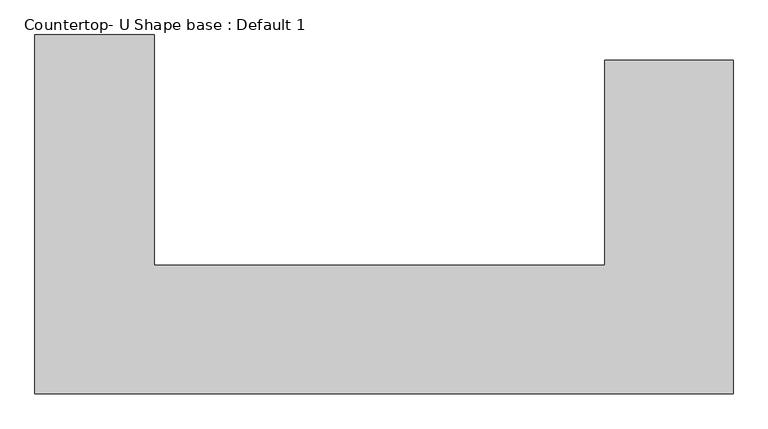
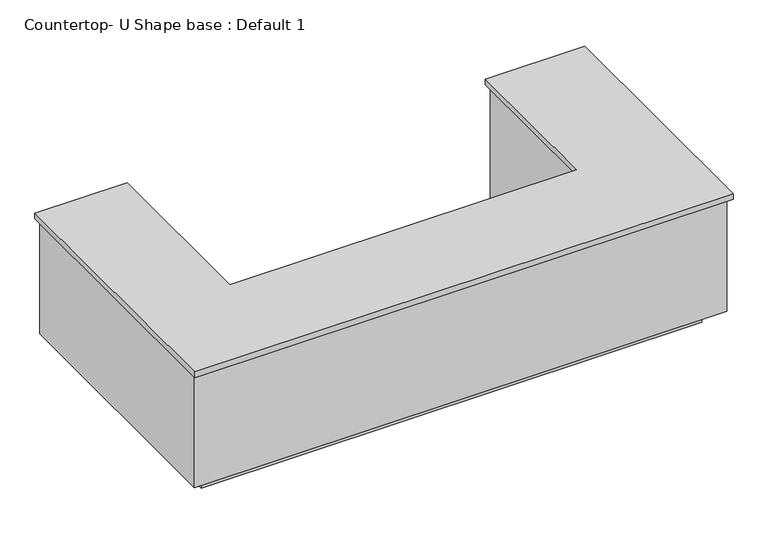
"""IFC4 building model written with IfcOpenShell, lengths in millimetres: proxy geometry, Countertop- U Shape base : Default 1."""

from ifc_helpers import new_model, si_unit, frame, origin, origin_with_axes, place, context, project, spatial, polyline, outline, extrude, source, transform, mapped, element, save


def countertop_u_shape_base_default_1_f55b23da(model_context):
    return source(origin(), model_context, "Body", "SweptSolid", [
        extrude(outline(polyline([(-1288.55, -19.05), (-1288.55, 1754.3427288), (-698.0, 1754.3427288), (-698.0, 615.95), (1524.5, 615.95), (1524.5, 1628.1980547), (2159.5, 1628.1980547), (2159.5, -19.05), (-1288.55, -19.05)])), frame((0.0, 0.0, 876.3), z_axis=(0.0, 0.0, 1.0), x_axis=(1.0, 0.0, 0.0)), (0.0, 0.0, 1.0), 38.1),
        extrude(outline(polyline([(1543.55, 596.9), (1543.55, 1609.1480547), (2140.45, 1609.1480547), (2140.45, 19.05), (-1269.5, 19.05), (-1269.5, 1735.2927288), (-717.05, 1735.2927288), (-717.05, 596.9), (1543.55, 596.9)])), frame((0.0, 0.0, 101.6), z_axis=(0.0, 0.0, 1.0), x_axis=(1.0, 0.0, 0.0)), (0.0, 0.0, 1.0), 774.7),
        extrude(outline(polyline([(-793.4045837, 1633.6927288), (-793.4045837, 495.3), (1645.15, 495.3), (1645.15, 1507.5480547), (2038.85, 1507.5480547), (2038.85, 120.65), (-1167.9, 120.65), (-1167.9, 1633.6927288), (-793.4045837, 1633.6927288)])), origin_with_axes(), (0.0, 0.0, 1.0), 101.6),
    ])


if __name__ == "__main__":
    model = new_model("IFC4")
    model_context = context("Model", 3, world=origin())
    ifc_project = project(units=[si_unit("LENGTHUNIT", "METRE", prefix="MILLI")], contexts=[model_context])
    site = spatial("IfcSite", under=ifc_project)
    building = spatial("IfcBuilding", under=site)
    placement = place(None, origin())
    countertop_u_shape_base_default_1_shape = countertop_u_shape_base_default_1_f55b23da(model_context)
    element("IfcBuildingElementProxy", 1, Name="Countertop- U Shape base : Default 1", ObjectType="Countertop- U Shape base : Default 1", at=placement, inside=building, context=model_context, shape_type="MappedRepresentation", body=[
        mapped(countertop_u_shape_base_default_1_shape, transform((0.0, 0.0, 0.0), x_axis=(1.0, 0.0, 0.0), y_axis=(0.0, 1.0, 0.0), z_axis=(0.0, 0.0, 1.0))),
    ])
    save(model, "model.ifc")
